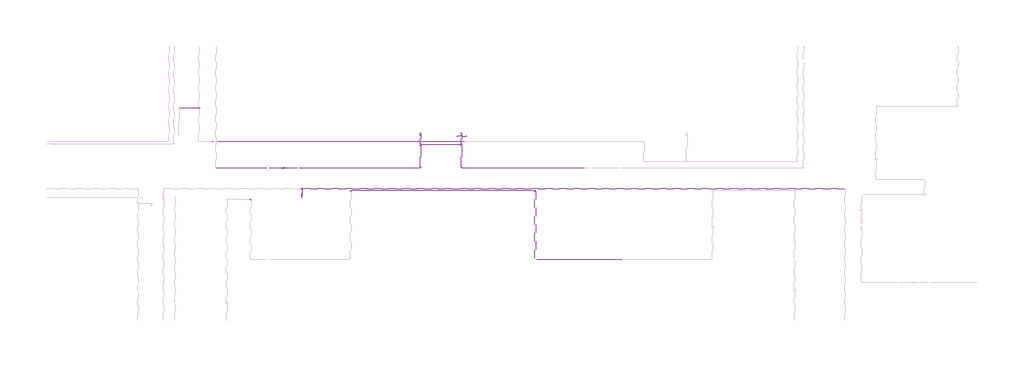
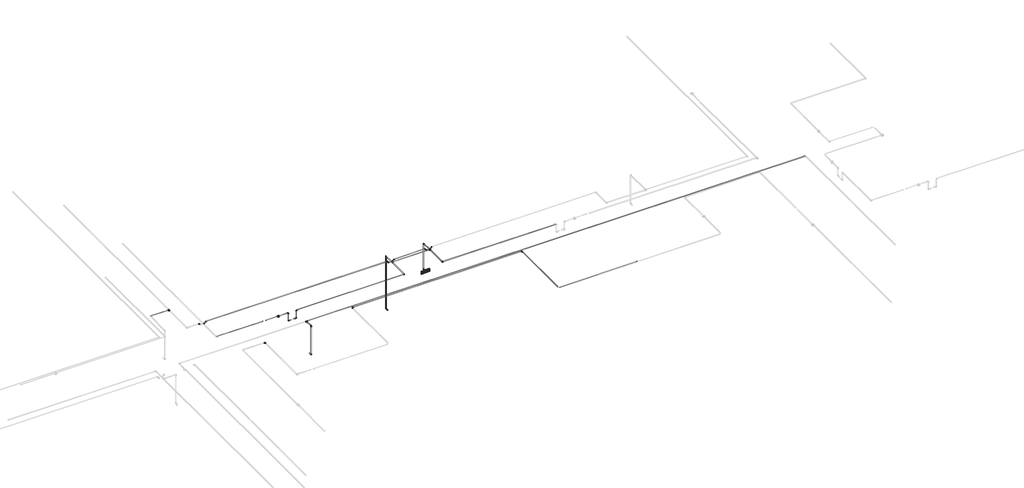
# One storey, part 8 of 13: 34 cable carrier segments, 30 cable carrier fittings, 2 alarms.
"""IFC4 building model written with IfcOpenShell, lengths in millimetres."""

from ifc_helpers import new_model, si_unit, point, frame, frame_2d, origin, place, context, project, spatial, circle_curve, trimmed, segment, composite_curve, outline, extrude, transform, mapped, element, save
from components import alarm_4b7e8fd8, alarm_a2247946, cable_carrier_fitting_69f1a801, cable_carrier_fitting_8122f9af, cable_carrier_fitting_ec786a0c, cable_carrier_fitting_8fd13dfc

model = new_model("IFC4")

# Units and contexts
model_context = context("Model", 3, world=origin())
ifc_project = project(units=[si_unit("LENGTHUNIT", "METRE", prefix="MILLI")], contexts=[model_context])

# Site, building, storey
site = spatial("IfcSite", under=ifc_project)
building = spatial("IfcBuilding", under=site)
storey = spatial("IfcBuildingStorey", under=building, Name="2 этаж", Elevation=3500.0)

# Alarms
placement = place(None, origin())
alarm_shape = alarm_4b7e8fd8(model_context)
element("IfcAlarm", 1, ObjectType="RBZ_Оповещатель_Световой_Рубеж_ОПОП1-R3(грань) : ОПОП 1-R3 \"Выход\"", at=placement, inside=storey, context=model_context, shape_type="MappedRepresentation", body=[
    mapped(alarm_shape, transform((-4712.3240021, 6224.6370105, 6000.0), x_axis=(1.0, 0.0, 0.0), y_axis=(0.0, 0.0, 1.0), z_axis=(0.0, -1.0, 0.0))),
])
alarm_2_shape = alarm_a2247946(model_context)
element("IfcAlarm", 2, ObjectType="RBZ_ИзоляторШлейфа_Рубеж_ИЗ-1_прот.R3(плоскость) : ИЗ-1 прот.R3", at=placement, inside=storey, context=model_context, shape_type="MappedRepresentation", body=[
    mapped(alarm_2_shape, transform((-10602.2714017, 5164.6370105, 6997.7), x_axis=(1.0, 0.0, 0.0), y_axis=(0.0, 1.0, 0.0), z_axis=(0.0, 0.0, 1.0))),
])

# Cable carrier fittings
cable_carrier_fitting_shape = cable_carrier_fitting_69f1a801(model_context)
element("IfcCableCarrierFitting", 3, ObjectType="ADSK_Поворот_Минимальный размер : Неспецифицируемый", at=placement, inside=storey, context=model_context, shape_type="MappedRepresentation", body=[
    mapped(cable_carrier_fitting_shape, transform((-11678.8240021, 4135.4271104, 6986.95), x_axis=(0.0, 1.0, 0.0), y_axis=(-1.0, 0.0, 0.0), z_axis=(0.0, 0.0, 1.0))),
])
element("IfcCableCarrierFitting", 4, ObjectType="ADSK_Поворот_Минимальный размер : Неспецифицируемый", at=placement, inside=storey, context=model_context, shape_type="MappedRepresentation", body=[
    mapped(cable_carrier_fitting_shape, transform((-2276.8240021, 4424.6370105, 6986.95), x_axis=(0.0, 1.0, 0.0), y_axis=(-1.0, 0.0, 0.0), z_axis=(0.0, 0.0, 1.0))),
])
element("IfcCableCarrierFitting", 5, ObjectType="ADSK_Поворот_Минимальный размер : Неспецифицируемый", at=placement, inside=storey, context=model_context, shape_type="MappedRepresentation", body=[
    mapped(cable_carrier_fitting_shape, transform((-8372.3240021, 4424.6370105, 6986.95), x_axis=(-1.0, 0.0, 0.0), y_axis=(0.0, -1.0, 0.0), z_axis=(0.0, 0.0, 1.0))),
])
element("IfcCableCarrierFitting", 6, ObjectType="ADSK_Поворот_Минимальный размер : Неспецифицируемый", at=placement, inside=storey, context=model_context, shape_type="MappedRepresentation", body=[
    mapped(cable_carrier_fitting_shape, transform((-10246.0238077, 5164.6370105, 6691.5753772), x_axis=(-1.0, 0.0, 0.0), y_axis=(0.0, 0.0, 1.0), z_axis=(0.0, 1.0, 0.0))),
])
element("IfcCableCarrierFitting", 7, ObjectType="ADSK_Поворот_Минимальный размер : Неспецифицируемый", at=placement, inside=storey, context=model_context, shape_type="MappedRepresentation", body=[
    mapped(cable_carrier_fitting_shape, transform((-10246.0238077, 5164.6370105, 6986.95), x_axis=(0.0, 0.0, 1.0), y_axis=(-1.0, 0.0, 0.0), z_axis=(0.0, -1.0, 0.0))),
])
element("IfcCableCarrierFitting", 8, ObjectType="ADSK_Поворот_Минимальный размер : Неспецифицируемый", at=placement, inside=storey, context=model_context, shape_type="MappedRepresentation", body=[
    mapped(cable_carrier_fitting_shape, transform((-9958.6241965, 5164.6370105, 6691.5753772), x_axis=(1.0, 0.0, 0.0), y_axis=(0.0, 0.0, 1.0), z_axis=(0.0, -1.0, 0.0))),
])
element("IfcCableCarrierFitting", 9, ObjectType="ADSK_Поворот_Минимальный размер : Неспецифицируемый", at=placement, inside=storey, context=model_context, shape_type="MappedRepresentation", body=[
    mapped(cable_carrier_fitting_shape, transform((-9958.6241965, 5164.6370105, 6990.0), x_axis=(0.0, 0.0, 1.0), y_axis=(1.0, 0.0, 0.0), z_axis=(0.0, 1.0, 0.0))),
])
element("IfcCableCarrierFitting", 10, ObjectType="ADSK_Поворот_Минимальный размер : Неспецифицируемый", at=placement, inside=storey, context=model_context, shape_type="MappedRepresentation", body=[
    mapped(cable_carrier_fitting_shape, transform((-6072.6441006, 5164.6370105, 6990.0), x_axis=(1.0, 0.0, 0.0), y_axis=(0.0, 1.0, 0.0), z_axis=(0.0, 0.0, 1.0))),
])
element("IfcCableCarrierFitting", 11, ObjectType="ADSK_Поворот_Минимальный размер : Неспецифицируемый", at=placement, inside=storey, context=model_context, shape_type="MappedRepresentation", body=[
    mapped(cable_carrier_fitting_shape, transform((-9982.3240021, 4197.4372049, 5897.4861504), x_axis=(0.0, -1.0, 0.0), y_axis=(0.0, 0.0, 1.0), z_axis=(-1.0, 0.0, 0.0))),
])
element("IfcCableCarrierFitting", 12, ObjectType="ADSK_Поворот_Минимальный размер : Неспецифицируемый", at=placement, inside=storey, context=model_context, shape_type="MappedRepresentation", body=[
    mapped(cable_carrier_fitting_shape, transform((-9982.3240021, 4197.4372049, 6990.0), x_axis=(0.0, 0.0, 1.0), y_axis=(0.0, 1.0, 0.0), z_axis=(-1.0, 0.0, 0.0))),
])
element("IfcCableCarrierFitting", 13, ObjectType="ADSK_Поворот_Минимальный размер : Неспецифицируемый", at=placement, inside=storey, context=model_context, shape_type="MappedRepresentation", body=[
    mapped(cable_carrier_fitting_shape, transform((-4712.3240021, 6321.8368161, 6000.0), x_axis=(0.0, 1.0, 0.0), y_axis=(0.0, 0.0, 1.0), z_axis=(1.0, 0.0, 0.0))),
])
element("IfcCableCarrierFitting", 14, ObjectType="ADSK_Поворот_Минимальный размер : Неспецифицируемый", at=placement, inside=storey, context=model_context, shape_type="MappedRepresentation", body=[
    mapped(cable_carrier_fitting_shape, transform((-4712.3240021, 6321.8368161, 6990.0), x_axis=(0.0, 0.0, 1.0), y_axis=(-0.0002746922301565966, -0.9999999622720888, 0.0), z_axis=(0.9999999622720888, -0.0002746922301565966, 0.0))),
])
element("IfcCableCarrierFitting", 15, ObjectType="ADSK_Поворот_Минимальный размер : Неспецифицируемый", at=placement, inside=storey, context=model_context, shape_type="MappedRepresentation", body=[
    mapped(cable_carrier_fitting_shape, transform((-6072.6441006, 6321.8368161, 5000.0), x_axis=(0.0, 1.0, 0.0), y_axis=(0.0, 0.0, 1.0), z_axis=(1.0, 0.0, 0.0))),
])
element("IfcCableCarrierFitting", 16, ObjectType="ADSK_Поворот_Минимальный размер : Неспецифицируемый", at=placement, inside=storey, context=model_context, shape_type="MappedRepresentation", body=[
    mapped(cable_carrier_fitting_shape, transform((-6072.6441006, 6321.8368161, 6990.0), x_axis=(0.0, 0.0, 1.0), y_axis=(0.0, -1.0, 0.0), z_axis=(1.0, 0.0, 0.0))),
])
cable_carrier_fitting_2_shape = cable_carrier_fitting_8122f9af(model_context)
element("IfcCableCarrierFitting", 17, ObjectType="ADSK_Поворот_Минимальный размер : Неспецифицируемый", at=placement, inside=storey, context=model_context, shape_type="MappedRepresentation", body=[
    mapped(cable_carrier_fitting_2_shape, transform((-4828.9659859, 6037.6221207, 6990.0), x_axis=(1.0, 0.0, 0.0), y_axis=(0.0, 0.0, -1.0), z_axis=(0.0, 1.0, 0.0))),
])
element("IfcCableCarrierFitting", 18, ObjectType="ADSK_Поворот_Минимальный размер : Неспецифицируемый", at=placement, inside=storey, context=model_context, shape_type="MappedRepresentation", body=[
    mapped(cable_carrier_fitting_2_shape, transform((-4778.9659859, 6037.6221207, 6940.0), x_axis=(0.7071067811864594, 0.0, -0.7071067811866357), y_axis=(0.7071067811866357, 0.0, 0.7071067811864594), z_axis=(0.0, -1.0, 0.0))),
])
element("IfcCableCarrierFitting", 19, ObjectType="ADSK_Поворот_Минимальный размер : Неспецифицируемый", at=placement, inside=storey, context=model_context, shape_type="MappedRepresentation", body=[
    mapped(cable_carrier_fitting_2_shape, transform((-4645.8214434, 6037.6221207, 6940.0), x_axis=(1.0, 0.0, 0.0), y_axis=(0.0, 0.0, 1.0), z_axis=(0.0, -1.0, 0.0))),
])
element("IfcCableCarrierFitting", 20, ObjectType="ADSK_Поворот_Минимальный размер : Неспецифицируемый", at=placement, inside=storey, context=model_context, shape_type="MappedRepresentation", body=[
    mapped(cable_carrier_fitting_2_shape, transform((-6189.2163719, 6037.6221207, 6990.0), x_axis=(1.0, 0.0, 0.0), y_axis=(0.0, 0.0, -1.0), z_axis=(0.0, 1.0, 0.0))),
])
element("IfcCableCarrierFitting", 21, ObjectType="ADSK_Поворот_Минимальный размер : Неспецифицируемый", at=placement, inside=storey, context=model_context, shape_type="MappedRepresentation", body=[
    mapped(cable_carrier_fitting_2_shape, transform((-6139.2163719, 6037.6221207, 6940.0), x_axis=(0.7071067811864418, 0.0, -0.7071067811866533), y_axis=(0.7071067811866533, 0.0, 0.7071067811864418), z_axis=(0.0, -1.0, 0.0))),
])
element("IfcCableCarrierFitting", 22, ObjectType="ADSK_Поворот_Минимальный размер : Неспецифицируемый", at=placement, inside=storey, context=model_context, shape_type="MappedRepresentation", body=[
    mapped(cable_carrier_fitting_2_shape, transform((-6006.0718294, 6037.6221207, 6940.0), x_axis=(1.0, 0.0, 0.0), y_axis=(0.0, 0.0, 1.0), z_axis=(0.0, -1.0, 0.0))),
])
element("IfcCableCarrierFitting", 23, ObjectType="ADSK_Поворот_Минимальный размер : Неспецифицируемый", at=placement, inside=storey, context=model_context, shape_type="MappedRepresentation", body=[
    mapped(cable_carrier_fitting_2_shape, transform((-5956.0718294, 6037.6221207, 6990.0), x_axis=(0.7071067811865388, 0.0, 0.7071067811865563), y_axis=(0.7071067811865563, 0.0, -0.7071067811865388), z_axis=(0.0, 1.0, 0.0))),
])
element("IfcCableCarrierFitting", 24, ObjectType="ADSK_Поворот_Минимальный размер : Неспецифицируемый", at=placement, inside=storey, context=model_context, shape_type="MappedRepresentation", body=[
    mapped(cable_carrier_fitting_2_shape, transform((-12760.7517309, 6037.6221207, 6940.0), x_axis=(1.0, 0.0, 0.0), y_axis=(0.0, 0.0, 1.0), z_axis=(0.0, -1.0, 0.0))),
])
element("IfcCableCarrierFitting", 25, ObjectType="ADSK_Поворот_Минимальный размер : Неспецифицируемый", at=placement, inside=storey, context=model_context, shape_type="MappedRepresentation", body=[
    mapped(cable_carrier_fitting_2_shape, transform((-12710.7517309, 6037.6221207, 6990.0), x_axis=(0.70710678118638, 0.0, 0.707106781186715), y_axis=(0.707106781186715, 0.0, -0.70710678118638), z_axis=(0.0, 1.0, 0.0))),
])
element("IfcCableCarrierFitting", 26, ObjectType="ADSK_Поворот_Минимальный размер : Неспецифицируемый", at=placement, inside=storey, context=model_context, shape_type="MappedRepresentation", body=[
    mapped(cable_carrier_fitting_2_shape, transform((-4595.8214434, 6037.6221207, 6990.0), x_axis=(0.7071067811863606, 0.0, 0.7071067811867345), y_axis=(0.7071067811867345, 0.0, -0.7071067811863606), z_axis=(0.0, 1.0, 0.0))),
])
element("IfcCableCarrierFitting", 27, ObjectType="ADSK_Поворот_Минимальный размер : Неспецифицируемый", at=placement, inside=storey, context=model_context, shape_type="MappedRepresentation", body=[
    mapped(cable_carrier_fitting_2_shape, transform((-12943.8962734, 6037.6221207, 6990.0), x_axis=(-0.7071067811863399, 0.0, 0.7071067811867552), y_axis=(-0.7071067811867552, 0.0, -0.7071067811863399), z_axis=(0.0, -1.0, 0.0))),
])
cable_carrier_fitting_3_shape = cable_carrier_fitting_ec786a0c(model_context)
element("IfcCableCarrierFitting", 28, ObjectType="ADSK_Поворот_Минимальный размер : Неспецифицируемый", at=placement, inside=storey, context=model_context, shape_type="MappedRepresentation", body=[
    mapped(cable_carrier_fitting_3_shape, transform((-4712.7375163, 5164.6370105, 6990.0), x_axis=(-0.00039382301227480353, -0.9999999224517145, 0.0), y_axis=(0.9999999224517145, -0.00039382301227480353, 0.0), z_axis=(0.0, 0.0, 1.0))),
])
cable_carrier_fitting_4_shape = cable_carrier_fitting_8fd13dfc(model_context)
element("IfcCableCarrierFitting", 29, ObjectType="ADSK_Тройник : ПВХ", at=placement, inside=storey, context=model_context, shape_type="MappedRepresentation", body=[
    mapped(cable_carrier_fitting_4_shape, transform((-6072.6441006, 5937.4553083, 6990.0), x_axis=(0.0, 1.0, 0.0), y_axis=(-1.0, 0.0, 0.0), z_axis=(0.0, 0.0, 1.0))),
])
element("IfcCableCarrierFitting", 30, ObjectType="ADSK_Тройник : ПВХ", at=placement, inside=storey, context=model_context, shape_type="MappedRepresentation", body=[
    mapped(cable_carrier_fitting_4_shape, transform((-4712.4331626, 5937.4553083, 6990.0), x_axis=(-0.00039382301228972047, -0.9999999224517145, 0.0), y_axis=(0.9999999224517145, -0.00039382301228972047, 0.0), z_axis=(0.0, 0.0, 1.0))),
])
element("IfcCableCarrierFitting", 31, ObjectType="ADSK_Тройник : ПВХ", at=placement, inside=storey, context=model_context, shape_type="MappedRepresentation", body=[
    mapped(cable_carrier_fitting_4_shape, transform((-13382.3240021, 7149.6370105, 6990.0), x_axis=(0.0, -1.0, 0.0), y_axis=(1.0, 0.0, 0.0), z_axis=(0.0, 0.0, 1.0))),
])
element("IfcCableCarrierFitting", 32, ObjectType="ADSK_Тройник : ПВХ", at=placement, inside=storey, context=model_context, shape_type="MappedRepresentation", body=[
    mapped(cable_carrier_fitting_4_shape, transform((-9982.3240021, 4481.6519004, 6990.0), x_axis=(1.0, 0.0, 0.0), y_axis=(0.0, 1.0, 0.0), z_axis=(0.0, 0.0, 1.0))),
])

# Cable carrier segments
element("IfcCableCarrierSegment", 33, ObjectType="Гофрированная труба", at=placement, inside=storey, context=model_context, shape_type="SweptSolid", body=[
    extrude(outline(composite_curve([segment(trimmed(circle_curve(frame_2d((6986.95, -2276.8240021)), 10.0), [point((6986.95, -2266.8240021))], [point((6996.95, -2276.8240021))], False, "CARTESIAN"), True, "CONTINUOUS"), segment(trimmed(circle_curve(frame_2d((6986.95, -2276.8240021)), 10.0), [point((6996.95, -2276.8240021))], [point((6986.95, -2286.8240021))], False, "CARTESIAN"), True, "CONTINUOUS"), segment(trimmed(circle_curve(frame_2d((6986.95, -2276.8240021)), 10.0), [point((6986.95, -2286.8240021))], [point((6976.95, -2276.8240021))], False, "CARTESIAN"), True, "CONTINUOUS"), segment(trimmed(circle_curve(frame_2d((6986.95, -2276.8240021)), 10.0), [point((6976.95, -2276.8240021))], [point((6986.95, -2266.8240021))], False, "CARTESIAN"), True, "CONTINUOUS")], self_intersect=False)), frame((0.0, 2191.1370105, 0.0), z_axis=(0.0, 1.0, 0.0), x_axis=(0.0, 0.0, 1.0)), (0.0, 0.0, 1.0), 2212.5),
])
element("IfcCableCarrierSegment", 34, ObjectType="Гофрированная труба", at=placement, inside=storey, context=model_context, shape_type="SweptSolid", body=[
    extrude(outline(composite_curve([segment(trimmed(circle_curve(frame_2d((4424.6370105, 6986.95)), 10.0), [point((4434.6370105, 6986.95))], [point((4424.6370105, 6976.95))], False, "CARTESIAN"), True, "CONTINUOUS"), segment(trimmed(circle_curve(frame_2d((4424.6370105, 6986.95)), 10.0), [point((4424.6370105, 6976.95))], [point((4414.6370105, 6986.95))], False, "CARTESIAN"), True, "CONTINUOUS"), segment(trimmed(circle_curve(frame_2d((4424.6370105, 6986.95)), 10.0), [point((4414.6370105, 6986.95))], [point((4424.6370105, 6996.95))], False, "CARTESIAN"), True, "CONTINUOUS"), segment(trimmed(circle_curve(frame_2d((4424.6370105, 6986.95)), 10.0), [point((4424.6370105, 6996.95))], [point((4434.6370105, 6986.95))], False, "CARTESIAN"), True, "CONTINUOUS")], self_intersect=False)), frame((-8351.3240021, 0.0, 0.0), z_axis=(1.0, 0.0, 0.0), x_axis=(0.0, 1.0, 0.0)), (0.0, 0.0, 1.0), 6053.5),
])
element("IfcCableCarrierSegment", 35, ObjectType="Гофрированная труба", at=placement, inside=storey, context=model_context, shape_type="SweptSolid", body=[
    extrude(outline(composite_curve([segment(trimmed(circle_curve(frame_2d((2144.6370105, 6986.95)), 10.0), [point((2154.6370105, 6986.95))], [point((2144.6370105, 6976.95))], False, "CARTESIAN"), True, "CONTINUOUS"), segment(trimmed(circle_curve(frame_2d((2144.6370105, 6986.95)), 10.0), [point((2144.6370105, 6976.95))], [point((2134.6370105, 6986.95))], False, "CARTESIAN"), True, "CONTINUOUS"), segment(trimmed(circle_curve(frame_2d((2144.6370105, 6986.95)), 10.0), [point((2134.6370105, 6986.95))], [point((2144.6370105, 6996.95))], False, "CARTESIAN"), True, "CONTINUOUS"), segment(trimmed(circle_curve(frame_2d((2144.6370105, 6986.95)), 10.0), [point((2144.6370105, 6996.95))], [point((2154.6370105, 6986.95))], False, "CARTESIAN"), True, "CONTINUOUS")], self_intersect=False)), frame((-2230.3240021, 0.0, 0.0), z_axis=(1.0, 0.0, 0.0), x_axis=(0.0, 1.0, 0.0)), (0.0, 0.0, 1.0), 2786.5),
])
element("IfcCableCarrierSegment", 36, ObjectType="Гофрированная труба", at=placement, inside=storey, context=model_context, shape_type="SweptSolid", body=[
    extrude(outline(composite_curve([segment(trimmed(circle_curve(frame_2d((5164.6370105, 6986.95)), 10.0), [point((5174.6370105, 6986.95))], [point((5164.6370105, 6976.95))], False, "CARTESIAN"), True, "CONTINUOUS"), segment(trimmed(circle_curve(frame_2d((5164.6370105, 6986.95)), 10.0), [point((5164.6370105, 6976.95))], [point((5154.6370105, 6986.95))], False, "CARTESIAN"), True, "CONTINUOUS"), segment(trimmed(circle_curve(frame_2d((5164.6370105, 6986.95)), 10.0), [point((5154.6370105, 6986.95))], [point((5164.6370105, 6996.95))], False, "CARTESIAN"), True, "CONTINUOUS"), segment(trimmed(circle_curve(frame_2d((5164.6370105, 6986.95)), 10.0), [point((5164.6370105, 6996.95))], [point((5174.6370105, 6986.95))], False, "CARTESIAN"), True, "CONTINUOUS")], self_intersect=False)), frame((-12806.3240021, 0.0, 0.0), z_axis=(1.0, 0.0, 0.0), x_axis=(0.0, 1.0, 0.0)), (0.0, 0.0, 1.0), 1657.5),
])
element("IfcCableCarrierSegment", 37, ObjectType="Гофрированная труба", at=placement, inside=storey, context=model_context, shape_type="SweptSolid", body=[
    extrude(outline(composite_curve([segment(trimmed(circle_curve(frame_2d((5164.6370105, 6986.95)), 10.0), [point((5174.6370105, 6986.95))], [point((5164.6370105, 6976.95))], False, "CARTESIAN"), True, "CONTINUOUS"), segment(trimmed(circle_curve(frame_2d((5164.6370105, 6986.95)), 10.0), [point((5164.6370105, 6976.95))], [point((5154.6370105, 6986.95))], False, "CARTESIAN"), True, "CONTINUOUS"), segment(trimmed(circle_curve(frame_2d((5164.6370105, 6986.95)), 10.0), [point((5154.6370105, 6986.95))], [point((5164.6370105, 6996.95))], False, "CARTESIAN"), True, "CONTINUOUS"), segment(trimmed(circle_curve(frame_2d((5164.6370105, 6986.95)), 10.0), [point((5164.6370105, 6996.95))], [point((5174.6370105, 6986.95))], False, "CARTESIAN"), True, "CONTINUOUS")], self_intersect=False)), frame((-11055.8240021, 0.0, 0.0), z_axis=(1.0, 0.0, 0.0), x_axis=(0.0, 1.0, 0.0)), (0.0, 0.0, 1.0), 427.5526004),
])
element("IfcCableCarrierSegment", 38, ObjectType="Гофрированная труба", at=placement, inside=storey, context=model_context, shape_type="SweptSolid", body=[
    extrude(outline(composite_curve([segment(trimmed(circle_curve(frame_2d((5164.6370105, 6986.95)), 10.0), [point((5174.6370105, 6986.95))], [point((5164.6370105, 6976.95))], False, "CARTESIAN"), True, "CONTINUOUS"), segment(trimmed(circle_curve(frame_2d((5164.6370105, 6986.95)), 10.0), [point((5164.6370105, 6976.95))], [point((5154.6370105, 6986.95))], False, "CARTESIAN"), True, "CONTINUOUS"), segment(trimmed(circle_curve(frame_2d((5164.6370105, 6986.95)), 10.0), [point((5154.6370105, 6986.95))], [point((5164.6370105, 6996.95))], False, "CARTESIAN"), True, "CONTINUOUS"), segment(trimmed(circle_curve(frame_2d((5164.6370105, 6986.95)), 10.0), [point((5164.6370105, 6996.95))], [point((5174.6370105, 6986.95))], False, "CARTESIAN"), True, "CONTINUOUS")], self_intersect=False)), frame((-10576.2714017, 0.0, 0.0), z_axis=(1.0, 0.0, 0.0), x_axis=(0.0, 1.0, 0.0)), (0.0, 0.0, 1.0), 309.247594),
])
element("IfcCableCarrierSegment", 39, ObjectType="Гофрированная труба", at=placement, inside=storey, context=model_context, shape_type="SweptSolid", body=[
    extrude(outline(composite_curve([segment(trimmed(circle_curve(frame_2d((5164.6370105, 6691.5753772)), 10.0), [point((5174.6370105, 6691.5753772))], [point((5164.6370105, 6681.5753772))], False, "CARTESIAN"), True, "CONTINUOUS"), segment(trimmed(circle_curve(frame_2d((5164.6370105, 6691.5753772)), 10.0), [point((5164.6370105, 6681.5753772))], [point((5154.6370105, 6691.5753772))], False, "CARTESIAN"), True, "CONTINUOUS"), segment(trimmed(circle_curve(frame_2d((5164.6370105, 6691.5753772)), 10.0), [point((5154.6370105, 6691.5753772))], [point((5164.6370105, 6701.5753772))], False, "CARTESIAN"), True, "CONTINUOUS"), segment(trimmed(circle_curve(frame_2d((5164.6370105, 6691.5753772)), 10.0), [point((5164.6370105, 6701.5753772))], [point((5174.6370105, 6691.5753772))], False, "CARTESIAN"), True, "CONTINUOUS")], self_intersect=False)), frame((-10225.0238077, 0.0, 0.0), z_axis=(1.0, 0.0, 0.0), x_axis=(0.0, 1.0, 0.0)), (0.0, 0.0, 1.0), 76.1998056),
])
element("IfcCableCarrierSegment", 40, ObjectType="Гофрированная труба", at=placement, inside=storey, context=model_context, shape_type="SweptSolid", body=[
    extrude(outline(composite_curve([segment(trimmed(circle_curve(frame_2d((-10246.0238077, 5164.6370105)), 10.0), [point((-10256.0238077, 5164.6370105))], [point((-10246.0238077, 5174.6370105))], False, "CARTESIAN"), True, "CONTINUOUS"), segment(trimmed(circle_curve(frame_2d((-10246.0238077, 5164.6370105)), 10.0), [point((-10246.0238077, 5174.6370105))], [point((-10236.0238077, 5164.6370105))], False, "CARTESIAN"), True, "CONTINUOUS"), segment(trimmed(circle_curve(frame_2d((-10246.0238077, 5164.6370105)), 10.0), [point((-10236.0238077, 5164.6370105))], [point((-10246.0238077, 5154.6370105))], False, "CARTESIAN"), True, "CONTINUOUS"), segment(trimmed(circle_curve(frame_2d((-10246.0238077, 5164.6370105)), 10.0), [point((-10246.0238077, 5154.6370105))], [point((-10256.0238077, 5164.6370105))], False, "CARTESIAN"), True, "CONTINUOUS")], self_intersect=False)), frame((0.0, 0.0, 6712.5753772), z_axis=(0.0, 0.0, 1.0), x_axis=(1.0, 0.0, 0.0)), (0.0, 0.0, 1.0), 253.3746228),
])
element("IfcCableCarrierSegment", 41, ObjectType="Гофрированная труба", at=placement, inside=storey, context=model_context, shape_type="SweptSolid", body=[
    extrude(outline(composite_curve([segment(trimmed(circle_curve(frame_2d((5164.6370105, 6990.0)), 10.0), [point((5154.6370105, 6990.0))], [point((5164.6370105, 7000.0))], False, "CARTESIAN"), True, "CONTINUOUS"), segment(trimmed(circle_curve(frame_2d((5164.6370105, 6990.0)), 10.0), [point((5164.6370105, 7000.0))], [point((5174.6370105, 6990.0))], False, "CARTESIAN"), True, "CONTINUOUS"), segment(trimmed(circle_curve(frame_2d((5164.6370105, 6990.0)), 10.0), [point((5174.6370105, 6990.0))], [point((5164.6370105, 6980.0))], False, "CARTESIAN"), True, "CONTINUOUS"), segment(trimmed(circle_curve(frame_2d((5164.6370105, 6990.0)), 10.0), [point((5164.6370105, 6980.0))], [point((5154.6370105, 6990.0))], False, "CARTESIAN"), True, "CONTINUOUS")], self_intersect=False)), frame((-9937.6241965, 0.0, 0.0), z_axis=(1.0, 0.0, 0.0), x_axis=(0.0, 1.0, 0.0)), (0.0, 0.0, 1.0), 3843.9800959),
])
element("IfcCableCarrierSegment", 42, ObjectType="Гофрированная труба", at=placement, inside=storey, context=model_context, shape_type="SweptSolid", body=[
    extrude(outline(composite_curve([segment(trimmed(circle_curve(frame_2d((5164.6370105, 6691.5753772)), 10.0), [point((5154.6370105, 6691.5753772))], [point((5164.6370105, 6701.5753772))], False, "CARTESIAN"), True, "CONTINUOUS"), segment(trimmed(circle_curve(frame_2d((5164.6370105, 6691.5753772)), 10.0), [point((5164.6370105, 6701.5753772))], [point((5174.6370105, 6691.5753772))], False, "CARTESIAN"), True, "CONTINUOUS"), segment(trimmed(circle_curve(frame_2d((5164.6370105, 6691.5753772)), 10.0), [point((5174.6370105, 6691.5753772))], [point((5164.6370105, 6681.5753772))], False, "CARTESIAN"), True, "CONTINUOUS"), segment(trimmed(circle_curve(frame_2d((5164.6370105, 6691.5753772)), 10.0), [point((5164.6370105, 6681.5753772))], [point((5154.6370105, 6691.5753772))], False, "CARTESIAN"), True, "CONTINUOUS")], self_intersect=False)), frame((-10055.8240021, 0.0, 0.0), z_axis=(1.0, 0.0, 0.0), x_axis=(0.0, 1.0, 0.0)), (0.0, 0.0, 1.0), 76.1998056),
])
element("IfcCableCarrierSegment", 43, ObjectType="Гофрированная труба", at=placement, inside=storey, context=model_context, shape_type="SweptSolid", body=[
    extrude(outline(composite_curve([segment(trimmed(circle_curve(frame_2d((-9958.6241965, 5164.6370105)), 10.0), [point((-9968.6241965, 5164.6370105))], [point((-9958.6241965, 5174.6370105))], False, "CARTESIAN"), True, "CONTINUOUS"), segment(trimmed(circle_curve(frame_2d((-9958.6241965, 5164.6370105)), 10.0), [point((-9958.6241965, 5174.6370105))], [point((-9948.6241965, 5164.6370105))], False, "CARTESIAN"), True, "CONTINUOUS"), segment(trimmed(circle_curve(frame_2d((-9958.6241965, 5164.6370105)), 10.0), [point((-9948.6241965, 5164.6370105))], [point((-9958.6241965, 5154.6370105))], False, "CARTESIAN"), True, "CONTINUOUS"), segment(trimmed(circle_curve(frame_2d((-9958.6241965, 5164.6370105)), 10.0), [point((-9958.6241965, 5154.6370105))], [point((-9968.6241965, 5164.6370105))], False, "CARTESIAN"), True, "CONTINUOUS")], self_intersect=False)), frame((0.0, 0.0, 6712.5753772), z_axis=(0.0, 0.0, 1.0), x_axis=(1.0, 0.0, 0.0)), (0.0, 0.0, 1.0), 256.4246228),
])
element("IfcCableCarrierSegment", 44, ObjectType="Гофрированная труба", at=placement, inside=storey, context=model_context, shape_type="SweptSolid", body=[
    extrude(outline(composite_curve([segment(trimmed(circle_curve(frame_2d((0.0, 10.0)), 10.0), [point((-10.0, 10.0))], [point((0.0, 20.0))], False, "CARTESIAN"), True, "CONTINUOUS"), segment(trimmed(circle_curve(frame_2d((0.0, 10.0)), 10.0), [point((0.0, 20.0))], [point((10.0, 10.0))], False, "CARTESIAN"), True, "CONTINUOUS"), segment(trimmed(circle_curve(frame_2d((0.0, 10.0)), 10.0), [point((10.0, 10.0))], [point((0.0, 0.0))], False, "CARTESIAN"), True, "CONTINUOUS"), segment(trimmed(circle_curve(frame_2d((0.0, 10.0)), 10.0), [point((0.0, 0.0))], [point((-10.0, 10.0))], False, "CARTESIAN"), True, "CONTINUOUS")], self_intersect=False)), frame((-6042.6441006, 5937.4553083, 6980.0), z_axis=(0.9999999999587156, 9.086748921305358e-06, 0.0), x_axis=(-9.086748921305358e-06, 0.9999999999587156, 0.0)), (0.0, 0.0, 1.0), 1300.2109404),
])
element("IfcCableCarrierSegment", 45, ObjectType="Гофрированная труба", at=placement, inside=storey, context=model_context, shape_type="SweptSolid", body=[
    extrude(outline(composite_curve([segment(trimmed(circle_curve(frame_2d((6990.0, -6072.6441006)), 10.0), [point((6990.0, -6062.6441006))], [point((7000.0, -6072.6441006))], False, "CARTESIAN"), True, "CONTINUOUS"), segment(trimmed(circle_curve(frame_2d((6990.0, -6072.6441006)), 10.0), [point((7000.0, -6072.6441006))], [point((6990.0, -6082.6441006))], False, "CARTESIAN"), True, "CONTINUOUS"), segment(trimmed(circle_curve(frame_2d((6990.0, -6072.6441006)), 10.0), [point((6990.0, -6082.6441006))], [point((6980.0, -6072.6441006))], False, "CARTESIAN"), True, "CONTINUOUS"), segment(trimmed(circle_curve(frame_2d((6990.0, -6072.6441006)), 10.0), [point((6980.0, -6072.6441006))], [point((6990.0, -6062.6441006))], False, "CARTESIAN"), True, "CONTINUOUS")], self_intersect=False)), frame((0.0, 5185.6370105, 0.0), z_axis=(0.0, 1.0, 0.0), x_axis=(0.0, 0.0, 1.0)), (0.0, 0.0, 1.0), 721.8182978),
])
element("IfcCableCarrierSegment", 46, ObjectType="Гофрированная труба", at=placement, inside=storey, context=model_context, shape_type="SweptSolid", body=[
    extrude(outline(composite_curve([segment(trimmed(circle_curve(frame_2d((0.0, 10.0)), 10.0), [point((0.0, 20.0))], [point((10.0, 10.0))], False, "CARTESIAN"), True, "CONTINUOUS"), segment(trimmed(circle_curve(frame_2d((0.0, 10.0)), 10.0), [point((10.0, 10.0))], [point((0.0, 0.0))], False, "CARTESIAN"), True, "CONTINUOUS"), segment(trimmed(circle_curve(frame_2d((0.0, 10.0)), 10.0), [point((0.0, 0.0))], [point((-10.0, 10.0))], False, "CARTESIAN"), True, "CONTINUOUS"), segment(trimmed(circle_curve(frame_2d((0.0, 10.0)), 10.0), [point((-10.0, 10.0))], [point((0.0, 20.0))], False, "CARTESIAN"), True, "CONTINUOUS")], self_intersect=False)), frame((-4722.7292421, 5185.6488251, 6990.0), z_axis=(0.0003938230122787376, 0.9999999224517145, 0.0), x_axis=(0.0, 0.0, 1.0)), (0.0, 0.0, 1.0), 721.8104797),
])
element("IfcCableCarrierSegment", 47, ObjectType="Гофрированная труба", at=placement, inside=storey, context=model_context, shape_type="SweptSolid", body=[
    extrude(outline(composite_curve([segment(trimmed(circle_curve(frame_2d((5164.6370105, 6990.0)), 10.0), [point((5174.6370105, 6990.0))], [point((5164.6370105, 6980.0))], False, "CARTESIAN"), True, "CONTINUOUS"), segment(trimmed(circle_curve(frame_2d((5164.6370105, 6990.0)), 10.0), [point((5164.6370105, 6980.0))], [point((5154.6370105, 6990.0))], False, "CARTESIAN"), True, "CONTINUOUS"), segment(trimmed(circle_curve(frame_2d((5164.6370105, 6990.0)), 10.0), [point((5154.6370105, 6990.0))], [point((5164.6370105, 7000.0))], False, "CARTESIAN"), True, "CONTINUOUS"), segment(trimmed(circle_curve(frame_2d((5164.6370105, 6990.0)), 10.0), [point((5164.6370105, 7000.0))], [point((5174.6370105, 6990.0))], False, "CARTESIAN"), True, "CONTINUOUS")], self_intersect=False)), frame((-4691.7296383, 0.0, 0.0), z_axis=(1.0, 0.0, 0.0), x_axis=(0.0, 1.0, 0.0)), (0.0, 0.0, 1.0), 4064.7058306),
])
element("IfcCableCarrierSegment", 48, ObjectType="Гофрированная труба", at=placement, inside=storey, context=model_context, shape_type="SweptSolid", body=[
    extrude(outline(composite_curve([segment(trimmed(circle_curve(frame_2d((6037.6221207, 6940.0)), 10.0), [point((6027.6221207, 6940.0))], [point((6037.6221207, 6950.0))], False, "CARTESIAN"), True, "CONTINUOUS"), segment(trimmed(circle_curve(frame_2d((6037.6221207, 6940.0)), 10.0), [point((6037.6221207, 6950.0))], [point((6047.6221207, 6940.0))], False, "CARTESIAN"), True, "CONTINUOUS"), segment(trimmed(circle_curve(frame_2d((6037.6221207, 6940.0)), 10.0), [point((6047.6221207, 6940.0))], [point((6037.6221207, 6930.0))], False, "CARTESIAN"), True, "CONTINUOUS"), segment(trimmed(circle_curve(frame_2d((6037.6221207, 6940.0)), 10.0), [point((6037.6221207, 6930.0))], [point((6027.6221207, 6940.0))], False, "CARTESIAN"), True, "CONTINUOUS")], self_intersect=False)), frame((-4769.6817146, 0.0, 0.0), z_axis=(1.0, 0.0, 0.0), x_axis=(0.0, 1.0, 0.0)), (0.0, 0.0, 1.0), 114.576),
])
element("IfcCableCarrierSegment", 49, ObjectType="Гофрированная труба", at=placement, inside=storey, context=model_context, shape_type="SweptSolid", body=[
    extrude(outline(composite_curve([segment(trimmed(circle_curve(frame_2d((7149.6370105, 6990.0)), 10.0), [point((7159.6370105, 6990.0))], [point((7149.6370105, 6980.0))], False, "CARTESIAN"), True, "CONTINUOUS"), segment(trimmed(circle_curve(frame_2d((7149.6370105, 6990.0)), 10.0), [point((7149.6370105, 6980.0))], [point((7139.6370105, 6990.0))], False, "CARTESIAN"), True, "CONTINUOUS"), segment(trimmed(circle_curve(frame_2d((7149.6370105, 6990.0)), 10.0), [point((7139.6370105, 6990.0))], [point((7149.6370105, 7000.0))], False, "CARTESIAN"), True, "CONTINUOUS"), segment(trimmed(circle_curve(frame_2d((7149.6370105, 6990.0)), 10.0), [point((7149.6370105, 7000.0))], [point((7159.6370105, 6990.0))], False, "CARTESIAN"), True, "CONTINUOUS")], self_intersect=False)), frame((-14031.3240021, 0.0, 0.0), z_axis=(1.0, 0.0, 0.0), x_axis=(0.0, 1.0, 0.0)), (0.0, 0.0, 1.0), 619.0),
])
element("IfcCableCarrierSegment", 50, ObjectType="Гофрированная труба", at=placement, inside=storey, context=model_context, shape_type="SweptSolid", body=[
    extrude(outline(composite_curve([segment(trimmed(circle_curve(frame_2d((6990.0, -9982.3240021)), 10.0), [point((6990.0, -9992.3240021))], [point((6980.0, -9982.3240021))], False, "CARTESIAN"), True, "CONTINUOUS"), segment(trimmed(circle_curve(frame_2d((6990.0, -9982.3240021)), 10.0), [point((6980.0, -9982.3240021))], [point((6990.0, -9972.3240021))], False, "CARTESIAN"), True, "CONTINUOUS"), segment(trimmed(circle_curve(frame_2d((6990.0, -9982.3240021)), 10.0), [point((6990.0, -9972.3240021))], [point((7000.0, -9982.3240021))], False, "CARTESIAN"), True, "CONTINUOUS"), segment(trimmed(circle_curve(frame_2d((6990.0, -9982.3240021)), 10.0), [point((7000.0, -9982.3240021))], [point((6990.0, -9992.3240021))], False, "CARTESIAN"), True, "CONTINUOUS")], self_intersect=False)), frame((0.0, 4218.4372049, 0.0), z_axis=(0.0, 1.0, 0.0), x_axis=(0.0, 0.0, 1.0)), (0.0, 0.0, 1.0), 233.2146954),
])
element("IfcCableCarrierSegment", 51, ObjectType="Гофрированная труба", at=placement, inside=storey, context=model_context, shape_type="SweptSolid", body=[
    extrude(outline(composite_curve([segment(trimmed(circle_curve(frame_2d((5897.4861504, -9982.3240021)), 10.0), [point((5897.4861504, -9992.3240021))], [point((5887.4861504, -9982.3240021))], False, "CARTESIAN"), True, "CONTINUOUS"), segment(trimmed(circle_curve(frame_2d((5897.4861504, -9982.3240021)), 10.0), [point((5887.4861504, -9982.3240021))], [point((5897.4861504, -9972.3240021))], False, "CARTESIAN"), True, "CONTINUOUS"), segment(trimmed(circle_curve(frame_2d((5897.4861504, -9982.3240021)), 10.0), [point((5897.4861504, -9972.3240021))], [point((5907.4861504, -9982.3240021))], False, "CARTESIAN"), True, "CONTINUOUS"), segment(trimmed(circle_curve(frame_2d((5897.4861504, -9982.3240021)), 10.0), [point((5907.4861504, -9982.3240021))], [point((5897.4861504, -9992.3240021))], False, "CARTESIAN"), True, "CONTINUOUS")], self_intersect=False)), frame((0.0, 4218.4372049, 0.0), z_axis=(0.0, 1.0, 0.0), x_axis=(0.0, 0.0, 1.0)), (0.0, 0.0, 1.0), 76.1998056),
])
element("IfcCableCarrierSegment", 52, ObjectType="Гофрированная труба", at=placement, inside=storey, context=model_context, shape_type="SweptSolid", body=[
    extrude(outline(composite_curve([segment(trimmed(circle_curve(frame_2d((-9982.3240021, 4197.4372049)), 10.0), [point((-9992.3240021, 4197.4372049))], [point((-9982.3240021, 4207.4372049))], False, "CARTESIAN"), True, "CONTINUOUS"), segment(trimmed(circle_curve(frame_2d((-9982.3240021, 4197.4372049)), 10.0), [point((-9982.3240021, 4207.4372049))], [point((-9972.3240021, 4197.4372049))], False, "CARTESIAN"), True, "CONTINUOUS"), segment(trimmed(circle_curve(frame_2d((-9982.3240021, 4197.4372049)), 10.0), [point((-9972.3240021, 4197.4372049))], [point((-9982.3240021, 4187.4372049))], False, "CARTESIAN"), True, "CONTINUOUS"), segment(trimmed(circle_curve(frame_2d((-9982.3240021, 4197.4372049)), 10.0), [point((-9982.3240021, 4187.4372049))], [point((-9992.3240021, 4197.4372049))], False, "CARTESIAN"), True, "CONTINUOUS")], self_intersect=False)), frame((0.0, 0.0, 5918.4861504), z_axis=(0.0, 0.0, 1.0), x_axis=(1.0, 0.0, 0.0)), (0.0, 0.0, 1.0), 1050.5138496),
])
element("IfcCableCarrierSegment", 53, ObjectType="Гофрированная труба", at=placement, inside=storey, context=model_context, shape_type="SweptSolid", body=[
    extrude(outline(composite_curve([segment(trimmed(circle_curve(frame_2d((4481.6519004, 6990.0)), 10.0), [point((4491.6519004, 6990.0))], [point((4481.6519004, 6980.0))], False, "CARTESIAN"), True, "CONTINUOUS"), segment(trimmed(circle_curve(frame_2d((4481.6519004, 6990.0)), 10.0), [point((4481.6519004, 6980.0))], [point((4471.6519004, 6990.0))], False, "CARTESIAN"), True, "CONTINUOUS"), segment(trimmed(circle_curve(frame_2d((4481.6519004, 6990.0)), 10.0), [point((4471.6519004, 6990.0))], [point((4481.6519004, 7000.0))], False, "CARTESIAN"), True, "CONTINUOUS"), segment(trimmed(circle_curve(frame_2d((4481.6519004, 6990.0)), 10.0), [point((4481.6519004, 7000.0))], [point((4491.6519004, 6990.0))], False, "CARTESIAN"), True, "CONTINUOUS")], self_intersect=False)), frame((-9952.3240021, 0.0, 0.0), z_axis=(1.0, 0.0, 0.0), x_axis=(0.0, 1.0, 0.0)), (0.0, 0.0, 1.0), 17891.5),
])
element("IfcCableCarrierSegment", 54, ObjectType="Гофрированная труба", at=placement, inside=storey, context=model_context, shape_type="SweptSolid", body=[
    extrude(outline(composite_curve([segment(trimmed(circle_curve(frame_2d((6037.6221207, 6940.0)), 10.0), [point((6027.6221207, 6940.0))], [point((6037.6221207, 6950.0))], False, "CARTESIAN"), True, "CONTINUOUS"), segment(trimmed(circle_curve(frame_2d((6037.6221207, 6940.0)), 10.0), [point((6037.6221207, 6950.0))], [point((6047.6221207, 6940.0))], False, "CARTESIAN"), True, "CONTINUOUS"), segment(trimmed(circle_curve(frame_2d((6037.6221207, 6940.0)), 10.0), [point((6047.6221207, 6940.0))], [point((6037.6221207, 6930.0))], False, "CARTESIAN"), True, "CONTINUOUS"), segment(trimmed(circle_curve(frame_2d((6037.6221207, 6940.0)), 10.0), [point((6037.6221207, 6930.0))], [point((6027.6221207, 6940.0))], False, "CARTESIAN"), True, "CONTINUOUS")], self_intersect=False)), frame((-6129.9321006, 0.0, 0.0), z_axis=(1.0, 0.0, 0.0), x_axis=(0.0, 1.0, 0.0)), (0.0, 0.0, 1.0), 114.576),
])
element("IfcCableCarrierSegment", 55, ObjectType="Гофрированная труба", at=placement, inside=storey, context=model_context, shape_type="SweptSolid", body=[
    extrude(outline(composite_curve([segment(trimmed(circle_curve(frame_2d((0.0, -10.0)), 10.0), [point((0.0, -20.0))], [point((-10.0000001, -10.0))], False, "CARTESIAN"), True, "CONTINUOUS"), segment(trimmed(circle_curve(frame_2d((0.0, -10.0)), 10.0), [point((-10.0000001, -10.0))], [point((0.0, 0.0))], False, "CARTESIAN"), True, "CONTINUOUS"), segment(trimmed(circle_curve(frame_2d((0.0, -10.0)), 10.0), [point((0.0, 0.0))], [point((10.0000001, -10.0))], False, "CARTESIAN"), True, "CONTINUOUS"), segment(trimmed(circle_curve(frame_2d((0.0, -10.0)), 10.0), [point((10.0000001, -10.0))], [point((0.0, -20.0))], False, "CARTESIAN"), True, "CONTINUOUS")], self_intersect=False)), frame((-4785.5309571, 6047.6221207, 6946.5649712), z_axis=(-0.7071067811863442, 0.0, 0.707106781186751), x_axis=(0.707106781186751, 0.0, 0.7071067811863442)), (0.0, 0.0, 1.0), 52.1421356),
])
element("IfcCableCarrierSegment", 56, ObjectType="Гофрированная труба", at=placement, inside=storey, context=model_context, shape_type="SweptSolid", body=[
    extrude(outline(composite_curve([segment(trimmed(circle_curve(frame_2d((0.0, 10.0)), 10.0), [point((0.0, 0.0))], [point((-10.0000001, 10.0))], False, "CARTESIAN"), True, "CONTINUOUS"), segment(trimmed(circle_curve(frame_2d((0.0, 10.0)), 10.0), [point((-10.0000001, 10.0))], [point((0.0, 20.0))], False, "CARTESIAN"), True, "CONTINUOUS"), segment(trimmed(circle_curve(frame_2d((0.0, 10.0)), 10.0), [point((0.0, 20.0))], [point((10.0000001, 10.0))], False, "CARTESIAN"), True, "CONTINUOUS"), segment(trimmed(circle_curve(frame_2d((0.0, 10.0)), 10.0), [point((10.0000001, 10.0))], [point((0.0, 0.0))], False, "CARTESIAN"), True, "CONTINUOUS")], self_intersect=False)), frame((-4639.2564722, 6027.6221207, 6946.5649712), z_axis=(0.7071067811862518, 0.0, 0.7071067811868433), x_axis=(0.7071067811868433, 0.0, -0.7071067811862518)), (0.0, 0.0, 1.0), 52.1421356),
])
element("IfcCableCarrierSegment", 57, ObjectType="Гофрированная труба", at=placement, inside=storey, context=model_context, shape_type="SweptSolid", body=[
    extrude(outline(composite_curve([segment(trimmed(circle_curve(frame_2d((0.0, -10.0)), 10.0), [point((0.0, -20.0))], [point((-10.0000001, -10.0))], False, "CARTESIAN"), True, "CONTINUOUS"), segment(trimmed(circle_curve(frame_2d((0.0, -10.0)), 10.0), [point((-10.0000001, -10.0))], [point((0.0, 0.0))], False, "CARTESIAN"), True, "CONTINUOUS"), segment(trimmed(circle_curve(frame_2d((0.0, -10.0)), 10.0), [point((0.0, 0.0))], [point((10.0, -10.0))], False, "CARTESIAN"), True, "CONTINUOUS"), segment(trimmed(circle_curve(frame_2d((0.0, -10.0)), 10.0), [point((10.0, -10.0))], [point((0.0, -20.0))], False, "CARTESIAN"), True, "CONTINUOUS")], self_intersect=False)), frame((-6145.781343, 6047.6221207, 6946.5649712), z_axis=(-0.7071067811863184, 0.0, 0.7071067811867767), x_axis=(0.7071067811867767, 0.0, 0.7071067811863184)), (0.0, 0.0, 1.0), 52.1421356),
])
element("IfcCableCarrierSegment", 58, ObjectType="Гофрированная труба", at=placement, inside=storey, context=model_context, shape_type="SweptSolid", body=[
    extrude(outline(composite_curve([segment(trimmed(circle_curve(frame_2d((6037.6221207, 6990.0)), 10.0), [point((6027.6221207, 6990.0))], [point((6037.6221207, 7000.0))], False, "CARTESIAN"), True, "CONTINUOUS"), segment(trimmed(circle_curve(frame_2d((6037.6221207, 6990.0)), 10.0), [point((6037.6221207, 7000.0))], [point((6047.6221207, 6990.0))], False, "CARTESIAN"), True, "CONTINUOUS"), segment(trimmed(circle_curve(frame_2d((6037.6221207, 6990.0)), 10.0), [point((6047.6221207, 6990.0))], [point((6037.6221207, 6980.0))], False, "CARTESIAN"), True, "CONTINUOUS"), segment(trimmed(circle_curve(frame_2d((6037.6221207, 6990.0)), 10.0), [point((6037.6221207, 6980.0))], [point((6027.6221207, 6990.0))], False, "CARTESIAN"), True, "CONTINUOUS")], self_intersect=False)), frame((-5946.7875581, 0.0, 0.0), z_axis=(1.0, 0.0, 0.0), x_axis=(0.0, 1.0, 0.0)), (0.0, 0.0, 1.0), 1108.537301),
])
element("IfcCableCarrierSegment", 59, ObjectType="Гофрированная труба", at=placement, inside=storey, context=model_context, shape_type="SweptSolid", body=[
    extrude(outline(composite_curve([segment(trimmed(circle_curve(frame_2d((0.0, 10.0)), 10.0), [point((0.0, 0.0))], [point((-10.0000001, 10.0))], False, "CARTESIAN"), True, "CONTINUOUS"), segment(trimmed(circle_curve(frame_2d((0.0, 10.0)), 10.0), [point((-10.0000001, 10.0))], [point((0.0, 20.0))], False, "CARTESIAN"), True, "CONTINUOUS"), segment(trimmed(circle_curve(frame_2d((0.0, 10.0)), 10.0), [point((0.0, 20.0))], [point((10.0000001, 10.0))], False, "CARTESIAN"), True, "CONTINUOUS"), segment(trimmed(circle_curve(frame_2d((0.0, 10.0)), 10.0), [point((10.0000001, 10.0))], [point((0.0, 0.0))], False, "CARTESIAN"), True, "CONTINUOUS")], self_intersect=False)), frame((-5999.5068582, 6027.6221207, 6946.5649712), z_axis=(0.7071067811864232, 0.0, 0.7071067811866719), x_axis=(0.7071067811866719, 0.0, -0.7071067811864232)), (0.0, 0.0, 1.0), 52.1421356),
])
element("IfcCableCarrierSegment", 60, ObjectType="Гофрированная труба", at=placement, inside=storey, context=model_context, shape_type="SweptSolid", body=[
    extrude(outline(composite_curve([segment(trimmed(circle_curve(frame_2d((0.0, 10.0)), 10.0), [point((0.0, 20.0000001))], [point((10.0, 10.0))], False, "CARTESIAN"), True, "CONTINUOUS"), segment(trimmed(circle_curve(frame_2d((0.0, 10.0)), 10.0), [point((10.0, 10.0))], [point((0.0, 0.0))], False, "CARTESIAN"), True, "CONTINUOUS"), segment(trimmed(circle_curve(frame_2d((0.0, 10.0)), 10.0), [point((0.0, 0.0))], [point((-10.0, 10.0))], False, "CARTESIAN"), True, "CONTINUOUS"), segment(trimmed(circle_curve(frame_2d((0.0, 10.0)), 10.0), [point((-10.0, 10.0))], [point((0.0, 20.0000001))], False, "CARTESIAN"), True, "CONTINUOUS")], self_intersect=False)), frame((-4722.4213476, 5967.4580529, 6990.0), z_axis=(0.0002746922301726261, 0.9999999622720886, 0.0), x_axis=(0.0, 0.0, 1.0)), (0.0, 0.0, 1.0), 333.3815235),
])
element("IfcCableCarrierSegment", 61, ObjectType="Гофрированная труба", at=placement, inside=storey, context=model_context, shape_type="SweptSolid", body=[
    extrude(outline(composite_curve([segment(trimmed(circle_curve(frame_2d((6000.0, -4712.3240021)), 10.0), [point((6000.0, -4702.3240021))], [point((6010.0, -4712.3240021))], False, "CARTESIAN"), True, "CONTINUOUS"), segment(trimmed(circle_curve(frame_2d((6000.0, -4712.3240021)), 10.0), [point((6010.0, -4712.3240021))], [point((6000.0, -4722.3240021))], False, "CARTESIAN"), True, "CONTINUOUS"), segment(trimmed(circle_curve(frame_2d((6000.0, -4712.3240021)), 10.0), [point((6000.0, -4722.3240021))], [point((5990.0, -4712.3240021))], False, "CARTESIAN"), True, "CONTINUOUS"), segment(trimmed(circle_curve(frame_2d((6000.0, -4712.3240021)), 10.0), [point((5990.0, -4712.3240021))], [point((6000.0, -4702.3240021))], False, "CARTESIAN"), True, "CONTINUOUS")], self_intersect=False)), frame((0.0, 6224.6370105, 0.0), z_axis=(0.0, 1.0, 0.0), x_axis=(0.0, 0.0, 1.0)), (0.0, 0.0, 1.0), 76.1998056),
])
element("IfcCableCarrierSegment", 62, ObjectType="Гофрированная труба", at=placement, inside=storey, context=model_context, shape_type="SweptSolid", body=[
    extrude(outline(composite_curve([segment(trimmed(circle_curve(frame_2d((-4712.3240021, 6321.8368161)), 10.0), [point((-4722.3240021, 6321.8368161))], [point((-4712.3240021, 6331.8368161))], False, "CARTESIAN"), True, "CONTINUOUS"), segment(trimmed(circle_curve(frame_2d((-4712.3240021, 6321.8368161)), 10.0), [point((-4712.3240021, 6331.8368161))], [point((-4702.3240021, 6321.8368161))], False, "CARTESIAN"), True, "CONTINUOUS"), segment(trimmed(circle_curve(frame_2d((-4712.3240021, 6321.8368161)), 10.0), [point((-4702.3240021, 6321.8368161))], [point((-4712.3240021, 6311.8368161))], False, "CARTESIAN"), True, "CONTINUOUS"), segment(trimmed(circle_curve(frame_2d((-4712.3240021, 6321.8368161)), 10.0), [point((-4712.3240021, 6311.8368161))], [point((-4722.3240021, 6321.8368161))], False, "CARTESIAN"), True, "CONTINUOUS")], self_intersect=False)), frame((0.0, 0.0, 6021.0), z_axis=(0.0, 0.0, 1.0), x_axis=(1.0, 0.0, 0.0)), (0.0, 0.0, 1.0), 948.0),
])
element("IfcCableCarrierSegment", 63, ObjectType="Гофрированная труба", at=placement, inside=storey, context=model_context, shape_type="SweptSolid", body=[
    extrude(outline(composite_curve([segment(trimmed(circle_curve(frame_2d((6990.0, -6072.6441006)), 10.0), [point((6990.0, -6062.6441006))], [point((7000.0, -6072.6441006))], False, "CARTESIAN"), True, "CONTINUOUS"), segment(trimmed(circle_curve(frame_2d((6990.0, -6072.6441006)), 10.0), [point((7000.0, -6072.6441006))], [point((6990.0, -6082.6441006))], False, "CARTESIAN"), True, "CONTINUOUS"), segment(trimmed(circle_curve(frame_2d((6990.0, -6072.6441006)), 10.0), [point((6990.0, -6082.6441006))], [point((6980.0, -6072.6441006))], False, "CARTESIAN"), True, "CONTINUOUS"), segment(trimmed(circle_curve(frame_2d((6990.0, -6072.6441006)), 10.0), [point((6980.0, -6072.6441006))], [point((6990.0, -6062.6441006))], False, "CARTESIAN"), True, "CONTINUOUS")], self_intersect=False)), frame((0.0, 5967.4553083, 0.0), z_axis=(0.0, 1.0, 0.0), x_axis=(0.0, 0.0, 1.0)), (0.0, 0.0, 1.0), 333.3815078),
])
element("IfcCableCarrierSegment", 64, ObjectType="Гофрированная труба", at=placement, inside=storey, context=model_context, shape_type="SweptSolid", body=[
    extrude(outline(composite_curve([segment(trimmed(circle_curve(frame_2d((5000.0, -6072.6441006)), 10.0), [point((5000.0, -6062.6441006))], [point((5010.0, -6072.6441006))], False, "CARTESIAN"), True, "CONTINUOUS"), segment(trimmed(circle_curve(frame_2d((5000.0, -6072.6441006)), 10.0), [point((5010.0, -6072.6441006))], [point((5000.0, -6082.6441006))], False, "CARTESIAN"), True, "CONTINUOUS"), segment(trimmed(circle_curve(frame_2d((5000.0, -6072.6441006)), 10.0), [point((5000.0, -6082.6441006))], [point((4990.0, -6072.6441006))], False, "CARTESIAN"), True, "CONTINUOUS"), segment(trimmed(circle_curve(frame_2d((5000.0, -6072.6441006)), 10.0), [point((4990.0, -6072.6441006))], [point((5000.0, -6062.6441006))], False, "CARTESIAN"), True, "CONTINUOUS")], self_intersect=False)), frame((0.0, 6224.6370105, 0.0), z_axis=(0.0, 1.0, 0.0), x_axis=(0.0, 0.0, 1.0)), (0.0, 0.0, 1.0), 76.1998056),
])
element("IfcCableCarrierSegment", 65, ObjectType="Гофрированная труба", at=placement, inside=storey, context=model_context, shape_type="SweptSolid", body=[
    extrude(outline(composite_curve([segment(trimmed(circle_curve(frame_2d((-6072.6441006, 6321.8368161)), 10.0), [point((-6082.6441006, 6321.8368161))], [point((-6072.6441006, 6331.8368161))], False, "CARTESIAN"), True, "CONTINUOUS"), segment(trimmed(circle_curve(frame_2d((-6072.6441006, 6321.8368161)), 10.0), [point((-6072.6441006, 6331.8368161))], [point((-6062.6441006, 6321.8368161))], False, "CARTESIAN"), True, "CONTINUOUS"), segment(trimmed(circle_curve(frame_2d((-6072.6441006, 6321.8368161)), 10.0), [point((-6062.6441006, 6321.8368161))], [point((-6072.6441006, 6311.8368161))], False, "CARTESIAN"), True, "CONTINUOUS"), segment(trimmed(circle_curve(frame_2d((-6072.6441006, 6321.8368161)), 10.0), [point((-6072.6441006, 6311.8368161))], [point((-6082.6441006, 6321.8368161))], False, "CARTESIAN"), True, "CONTINUOUS")], self_intersect=False)), frame((0.0, 0.0, 5021.0), z_axis=(0.0, 0.0, 1.0), x_axis=(1.0, 0.0, 0.0)), (0.0, 0.0, 1.0), 1948.0),
])
element("IfcCableCarrierSegment", 66, ObjectType="Гофрированная труба", at=placement, inside=storey, context=model_context, shape_type="SweptSolid", body=[
    extrude(outline(composite_curve([segment(trimmed(circle_curve(frame_2d((6037.6221207, 6990.0)), 10.0), [point((6027.6221207, 6990.0))], [point((6037.6221207, 7000.0))], False, "CARTESIAN"), True, "CONTINUOUS"), segment(trimmed(circle_curve(frame_2d((6037.6221207, 6990.0)), 10.0), [point((6037.6221207, 7000.0))], [point((6047.6221207, 6990.0))], False, "CARTESIAN"), True, "CONTINUOUS"), segment(trimmed(circle_curve(frame_2d((6037.6221207, 6990.0)), 10.0), [point((6047.6221207, 6990.0))], [point((6037.6221207, 6980.0))], False, "CARTESIAN"), True, "CONTINUOUS"), segment(trimmed(circle_curve(frame_2d((6037.6221207, 6990.0)), 10.0), [point((6037.6221207, 6980.0))], [point((6027.6221207, 6990.0))], False, "CARTESIAN"), True, "CONTINUOUS")], self_intersect=False)), frame((-12701.4674596, 0.0, 0.0), z_axis=(1.0, 0.0, 0.0), x_axis=(0.0, 1.0, 0.0)), (0.0, 0.0, 1.0), 6502.9668165),
])

save(model, "model.ifc")
